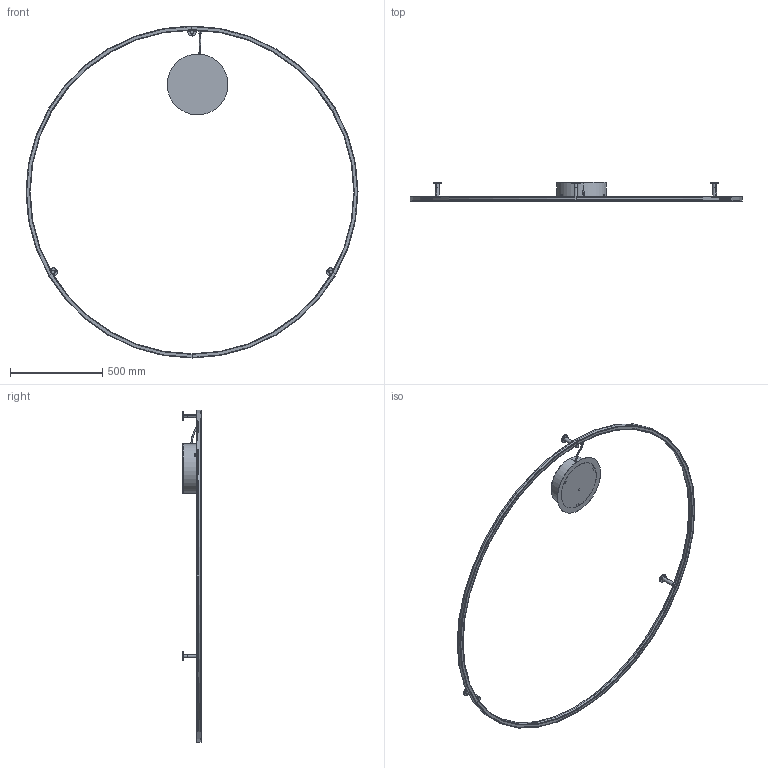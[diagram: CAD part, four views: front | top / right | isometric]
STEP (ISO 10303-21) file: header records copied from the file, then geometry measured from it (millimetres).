
FILE_DESCRIPTION (( 'STEP AP203' ), '1' );
FILE_NAME ('PLULX180XXXXXXX.STEP', '2025-11-17T14:34:52', ( '' ), ( '' ), 'SwSTEP 2.0', 'SolidWorks 2024', '' );
FILE_SCHEMA (( 'CONFIG_CONTROL_DESIGN' ));
Length unit declared in the file: millimetre
Products named in the file (19): PLULA180LEDANXX; serrated lock washer 1_din_MC-R002-EX-FE-00; WSCM2D0032-0700-00; TANG YAO-7727-P415 + RIV TESSILE 33- PER ANELLI; pan head cross recess screw_iso_MC-V001-CC-FE-10; WSCM2F0010-0128-01; WSCEE0000000000003; WSCM2A0028-0700-01; WSCM2C0046-0100-00; WSASS-000000018-32-01; ACPLULA100XXXXX; PLULX180XXXXXXX; WSCM2A0030-0700-01; ASSIEME ANELLO 180 MODULI LED; WSA5068-03-6-0-11-; WSCM2A0022-0700-00; WSCP2F0011-0403-00; WSCM2J0005-0132-00; WSCM2C0028-0100-00
Assembly tree (31 placements, depth 4):
  PLULX180XXXXXXX
    PLULA180LEDANXX
      ASSIEME ANELLO 180 MODULI LED
        WSCM2D0032-0700-00
        WSCP2F0011-0403-00  x6
        WSCM2A0022-0700-00
      WSA5068-03-6-0-11-
    ACPLULA100XXXXX  x3
      WSCM2A0030-0700-01
      WSCM2A0028-0700-01
    TANG YAO-7727-P415 + RIV TESSILE 33- PER ANELLI
    WSASS-000000018-32-01
      WSCM2J0005-0132-00
        WSCM2C0046-0100-00
        WSCM2C0028-0100-00  x3
        WSCEE0000000000003
      pan head cross recess screw_iso_MC-V001-CC-FE-10  x3
      serrated lock washer 1_din_MC-R002-EX-FE-00  x3
      WSCM2F0010-0128-01
Bounding box: 1800 x 101.5 x 1800 mm (x, y, z)
Volume: 1960413.5 mm3; surface area: 1543484.1 mm2
Topology: 28 solids, 28 shells, 870 faces, 2202 edges, 1327 vertices
Faces by surface type: plane 319, cylinder 218, cone 151, torus 90, bspline 86, sphere 6
Entity records: 24823 total; most frequent: CARTESIAN_POINT 11498, DIRECTION 2353, ORIENTED_EDGE 2258, EDGE_CURVE 1129, AXIS2_PLACEMENT_3D 967, VERTEX_POINT 701, EDGE_LOOP 530, CIRCLE 503
